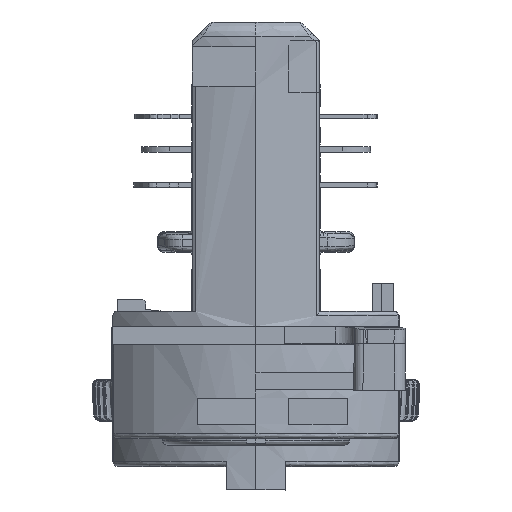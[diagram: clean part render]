
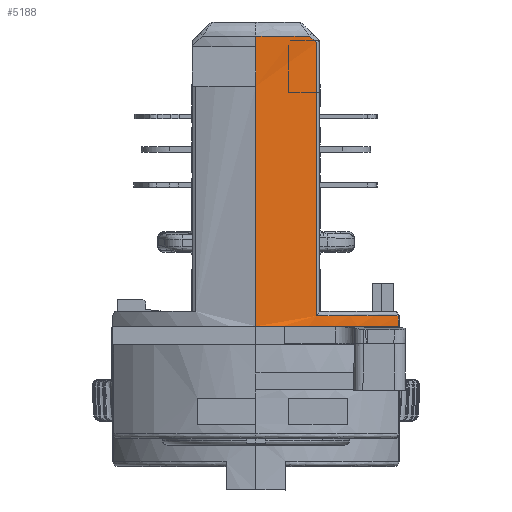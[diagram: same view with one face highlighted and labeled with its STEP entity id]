
A CAD part, left-side view. The second image highlights one B-rep face of the part: STEP entity #5188.
In plain terms, the highlighted free-form (B-spline) face has degree [2, 1] with [3, 2] control points.
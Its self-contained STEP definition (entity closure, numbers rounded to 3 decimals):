
#814=B_SPLINE_CURVE_WITH_KNOTS('',3,(#41599,#41600,#41601,#41602),
 .UNSPECIFIED.,.F.,.F.,(4,4),(0.,1.038),.UNSPECIFIED.);
#5188=ADVANCED_FACE('',(#6974),#28221,.T.);
#6974=FACE_OUTER_BOUND('',#8764,.T.);
#8764=EDGE_LOOP('',(#12256,#12257,#12258,#12259,#12260,#12261,#12262,#12263,
#12264));
#12256=ORIENTED_EDGE('',*,*,#20572,.T.);
#12257=ORIENTED_EDGE('',*,*,#20573,.T.);
#12258=ORIENTED_EDGE('',*,*,#20553,.F.);
#12259=ORIENTED_EDGE('',*,*,#20571,.F.);
#12260=ORIENTED_EDGE('',*,*,#20265,.F.);
#12261=ORIENTED_EDGE('',*,*,#20818,.F.);
#12262=ORIENTED_EDGE('',*,*,#20391,.T.);
#12263=ORIENTED_EDGE('',*,*,#21342,.T.);
#12264=ORIENTED_EDGE('',*,*,#20407,.F.);
#20265=EDGE_CURVE('',#25779,#25887,#24339,.T.);
#20391=EDGE_CURVE('',#25914,#25664,#24380,.T.);
#20407=EDGE_CURVE('',#25978,#25979,#24384,.T.);
#20553=EDGE_CURVE('',#26101,#26102,#814,.T.);
#20571=EDGE_CURVE('',#25887,#26101,#24434,.T.);
#20572=EDGE_CURVE('',#25978,#26104,#24435,.T.);
#20573=EDGE_CURVE('',#26104,#26102,#24436,.T.);
#20818=EDGE_CURVE('',#25914,#25779,#24520,.T.);
#21342=EDGE_CURVE('',#25664,#25979,#24786,.T.);
#24339=(
BOUNDED_CURVE()
B_SPLINE_CURVE(1,(#40805,#40806),.UNSPECIFIED.,.F.,.F.)
B_SPLINE_CURVE_WITH_KNOTS((2,2),(-290.567,-289.417),
 .UNSPECIFIED.)
CURVE()
GEOMETRIC_REPRESENTATION_ITEM()
RATIONAL_B_SPLINE_CURVE((1.,1.))
REPRESENTATION_ITEM('')
);
#24380=(
BOUNDED_CURVE()
B_SPLINE_CURVE(1,(#41191,#41192),.UNSPECIFIED.,.F.,.F.)
B_SPLINE_CURVE_WITH_KNOTS((2,2),(294.767,320.417),
 .UNSPECIFIED.)
CURVE()
GEOMETRIC_REPRESENTATION_ITEM()
RATIONAL_B_SPLINE_CURVE((1.,1.))
REPRESENTATION_ITEM('')
);
#24384=(
BOUNDED_CURVE()
B_SPLINE_CURVE(1,(#41233,#41234),.UNSPECIFIED.,.F.,.F.)
B_SPLINE_CURVE_WITH_KNOTS((2,2),(0.469,1.569),
 .UNSPECIFIED.)
CURVE()
GEOMETRIC_REPRESENTATION_ITEM()
RATIONAL_B_SPLINE_CURVE((1.,1.))
REPRESENTATION_ITEM('')
);
#24434=(
BOUNDED_CURVE()
B_SPLINE_CURVE(2,(#41665,#41666,#41667),.UNSPECIFIED.,.F.,.F.)
B_SPLINE_CURVE_WITH_KNOTS((3,3),(-67.141,-61.695),
 .UNSPECIFIED.)
CURVE()
GEOMETRIC_REPRESENTATION_ITEM()
RATIONAL_B_SPLINE_CURVE((1.,0.99,1.))
REPRESENTATION_ITEM('')
);
#24435=(
BOUNDED_CURVE()
B_SPLINE_CURVE(2,(#41668,#41669,#41670),.UNSPECIFIED.,.F.,.F.)
B_SPLINE_CURVE_WITH_KNOTS((3,3),(0.,10.837),.UNSPECIFIED.)
CURVE()
GEOMETRIC_REPRESENTATION_ITEM()
RATIONAL_B_SPLINE_CURVE((1.,0.966,1.))
REPRESENTATION_ITEM('')
);
#24436=(
BOUNDED_CURVE()
B_SPLINE_CURVE(1,(#41671,#41672),.UNSPECIFIED.,.F.,.F.)
B_SPLINE_CURVE_WITH_KNOTS((2,2),(0.,29.193),.UNSPECIFIED.)
CURVE()
GEOMETRIC_REPRESENTATION_ITEM()
RATIONAL_B_SPLINE_CURVE((1.,1.))
REPRESENTATION_ITEM('')
);
#24520=(
BOUNDED_CURVE()
B_SPLINE_CURVE(2,(#42280,#42281,#42282),.UNSPECIFIED.,.F.,.F.)
B_SPLINE_CURVE_WITH_KNOTS((3,3),(-294.767,-290.567),
 .UNSPECIFIED.)
CURVE()
GEOMETRIC_REPRESENTATION_ITEM()
RATIONAL_B_SPLINE_CURVE((1.,1.,1.))
REPRESENTATION_ITEM('')
);
#24786=(
BOUNDED_CURVE()
B_SPLINE_CURVE(2,(#43697,#43698,#43699),.UNSPECIFIED.,.F.,.F.)
B_SPLINE_CURVE_WITH_KNOTS((3,3),(0.,18.274),.UNSPECIFIED.)
CURVE()
GEOMETRIC_REPRESENTATION_ITEM()
RATIONAL_B_SPLINE_CURVE((1.,0.911,1.))
REPRESENTATION_ITEM('')
);
#25664=VERTEX_POINT('',#37370);
#25779=VERTEX_POINT('',#37485);
#25887=VERTEX_POINT('',#37593);
#25914=VERTEX_POINT('',#37620);
#25978=VERTEX_POINT('',#37684);
#25979=VERTEX_POINT('',#37685);
#26101=VERTEX_POINT('',#37807);
#26102=VERTEX_POINT('',#37808);
#26104=VERTEX_POINT('',#37810);
#28221=(
BOUNDED_SURFACE()
B_SPLINE_SURFACE(2,1,((#33441,#33442),(#33443,#33444),(#33445,#33446)),
 .UNSPECIFIED.,.F.,.F.,.F.)
B_SPLINE_SURFACE_WITH_KNOTS((3,3),(2,2),(46.428,63.525),
(3.459,34.459),.UNSPECIFIED.)
GEOMETRIC_REPRESENTATION_ITEM()
RATIONAL_B_SPLINE_SURFACE(((0.854,0.854),(0.842,
0.842),(1.,1.)))
REPRESENTATION_ITEM('')
SURFACE()
);
#33441=CARTESIAN_POINT('',(-324.546,0.765,-1.523));
#33442=CARTESIAN_POINT('',(-324.546,0.765,-32.523));
#33443=CARTESIAN_POINT('',(-331.403,6.803,-1.523));
#33444=CARTESIAN_POINT('',(-331.403,6.803,-32.523));
#33445=CARTESIAN_POINT('',(-331.403,15.94,-1.523));
#33446=CARTESIAN_POINT('',(-331.403,15.94,-32.523));
#37370=CARTESIAN_POINT('',(-331.403,15.94,-32.523));
#37485=CARTESIAN_POINT('',(-331.403,15.94,-2.673));
#37593=CARTESIAN_POINT('',(-331.403,15.94,-1.523));
#37620=CARTESIAN_POINT('',(-331.403,15.94,-6.873));
#37684=CARTESIAN_POINT('',(-324.546,0.765,-31.423));
#37685=CARTESIAN_POINT('',(-324.546,0.765,-32.523));
#37807=CARTESIAN_POINT('',(-330.573,10.205,-1.523));
#37808=CARTESIAN_POINT('',(-330.343,9.48,-2.23));
#37810=CARTESIAN_POINT('',(-330.343,9.48,-31.423));
#40805=CARTESIAN_POINT('',(-331.403,15.94,-2.673));
#40806=CARTESIAN_POINT('',(-331.403,15.94,-1.523));
#41191=CARTESIAN_POINT('',(-331.403,15.94,-6.873));
#41192=CARTESIAN_POINT('',(-331.403,15.94,-32.523));
#41233=CARTESIAN_POINT('',(-324.546,0.765,-31.423));
#41234=CARTESIAN_POINT('',(-324.546,0.765,-32.523));
#41599=CARTESIAN_POINT('',(-330.573,10.205,-1.523));
#41600=CARTESIAN_POINT('',(-330.501,9.963,-1.76));
#41601=CARTESIAN_POINT('',(-330.424,9.721,-1.996));
#41602=CARTESIAN_POINT('',(-330.343,9.48,-2.23));
#41665=CARTESIAN_POINT('',(-331.403,15.94,-1.523));
#41666=CARTESIAN_POINT('',(-331.403,13.013,-1.523));
#41667=CARTESIAN_POINT('',(-330.573,10.205,-1.523));
#41668=CARTESIAN_POINT('',(-324.546,0.765,-31.423));
#41669=CARTESIAN_POINT('',(-328.612,4.346,-31.423));
#41670=CARTESIAN_POINT('',(-330.343,9.48,-31.423));
#41671=CARTESIAN_POINT('',(-330.343,9.48,-31.423));
#41672=CARTESIAN_POINT('',(-330.343,9.48,-2.23));
#42280=CARTESIAN_POINT('',(-331.403,15.94,-6.873));
#42281=CARTESIAN_POINT('',(-331.403,15.94,-4.773));
#42282=CARTESIAN_POINT('',(-331.403,15.94,-2.673));
#43697=CARTESIAN_POINT('',(-331.403,15.94,-32.523));
#43698=CARTESIAN_POINT('',(-331.403,6.803,-32.523));
#43699=CARTESIAN_POINT('',(-324.546,0.765,-32.523));
